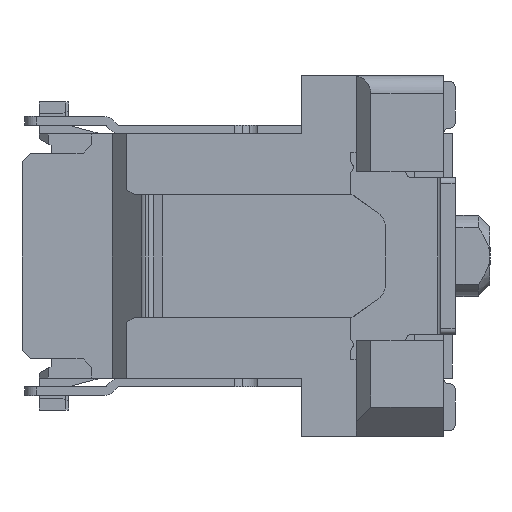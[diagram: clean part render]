
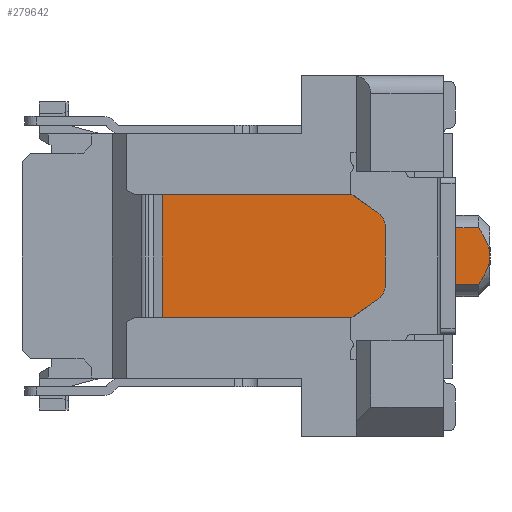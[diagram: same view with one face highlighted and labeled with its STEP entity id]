
A CAD part, left-side view. The second image highlights one B-rep face of the part: STEP entity #279642.
In plain terms, the highlighted planar face has unit normal (-1, 0, 0).
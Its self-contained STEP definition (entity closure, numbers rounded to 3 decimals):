
#2376 = EDGE_CURVE ( 'NONE', #144542, #52124, #21809, .T. ) ;
#3175 = DIRECTION ( 'NONE',  ( 0., 0., 1. ) ) ;
#17566 = ORIENTED_EDGE ( 'NONE', *, *, #175885, .F. ) ;
#21198 = CARTESIAN_POINT ( 'NONE',  ( -16.85, 5.041, -1.724 ) ) ;
#21809 = LINE ( 'NONE', #124909, #67159 ) ;
#28667 = DIRECTION ( 'NONE',  ( 0., -1., 0. ) ) ;
#37961 = CARTESIAN_POINT ( 'NONE',  ( -16.85, -0.574, -0.178 ) ) ;
#38967 = CARTESIAN_POINT ( 'NONE',  ( -16.85, -0.4, 0.49 ) ) ;
#52124 = VERTEX_POINT ( 'NONE', #205017 ) ;
#55818 = ORIENTED_EDGE ( 'NONE', *, *, #189562, .T. ) ;
#57181 = DIRECTION ( 'NONE',  ( 0., 1., 0. ) ) ;
#60444 = CARTESIAN_POINT ( 'NONE',  ( -16.85, -0.451, -0.417 ) ) ;
#61705 = VERTEX_POINT ( 'NONE', #263848 ) ;
#66049 = DIRECTION ( 'NONE',  ( 0., 0., 1. ) ) ;
#67159 = VECTOR ( 'NONE', #284876, 1000. ) ;
#77405 = CARTESIAN_POINT ( 'NONE',  ( -16.85, -0.4, 0.49 ) ) ;
#82153 = DIRECTION ( 'NONE',  ( 0., 1., 0. ) ) ;
#83717 = CARTESIAN_POINT ( 'NONE',  ( -16.85, -0.574, 0.179 ) ) ;
#85051 = VERTEX_POINT ( 'NONE', #118874 ) ;
#90376 = ORIENTED_EDGE ( 'NONE', *, *, #109785, .T. ) ;
#90633 = ORIENTED_EDGE ( 'NONE', *, *, #227441, .T. ) ;
#91454 = VERTEX_POINT ( 'NONE', #253071 ) ;
#92761 = EDGE_LOOP ( 'NONE', ( #174679, #90633, #153599, #135943, #17566, #170763, #90376, #55818, #196336 ) ) ;
#94098 = EDGE_CURVE ( 'NONE', #85051, #173667, #182687, .T. ) ;
#94907 = B_SPLINE_CURVE_WITH_KNOTS ( 'NONE', 3,
 ( #38967, #194951, #217328, #83717, #239794, #106284 ),
 .UNSPECIFIED., .F., .F.,
 ( 4, 2, 4 ),
 ( 0.002, 0.002, 0.003 ),
 .UNSPECIFIED. ) ;
#102771 = AXIS2_PLACEMENT_3D ( 'NONE', #110116, #265898, #132471 ) ;
#105712 = LINE ( 'NONE', #136451, #224278 ) ;
#106284 = CARTESIAN_POINT ( 'NONE',  ( -16.85, -0.6, 0. ) ) ;
#109785 = EDGE_CURVE ( 'NONE', #149050, #61705, #275068, .T. ) ;
#110116 = CARTESIAN_POINT ( 'NONE',  ( -16.85, -0.6, -0.49 ) ) ;
#118874 = CARTESIAN_POINT ( 'NONE',  ( -16.85, -0.4, -0.49 ) ) ;
#119336 = VECTOR ( 'NONE', #227813, 1000. ) ;
#120396 = VECTOR ( 'NONE', #66049, 1000. ) ;
#121995 = CARTESIAN_POINT ( 'NONE',  ( -16.85, 5.041, 1.05 ) ) ;
#122182 = CARTESIAN_POINT ( 'NONE',  ( -16.85, -0.6, 0.49 ) ) ;
#124909 = CARTESIAN_POINT ( 'NONE',  ( -16.85, 7.45, 1.05 ) ) ;
#127268 = LINE ( 'NONE', #140640, #245868 ) ;
#132160 = B_SPLINE_CURVE_WITH_KNOTS ( 'NONE', 3,
 ( #260066, #149007, #37961, #193944, #60444, #216289 ),
 .UNSPECIFIED., .F., .F.,
 ( 4, 2, 4 ),
 ( 0.003, 0.003, 0.003 ),
 .UNSPECIFIED. ) ;
#132471 = DIRECTION ( 'NONE',  ( 0., 0., 1. ) ) ;
#135943 = ORIENTED_EDGE ( 'NONE', *, *, #94098, .F. ) ;
#136451 = CARTESIAN_POINT ( 'NONE',  ( -16.85, 0.2, 1.2 ) ) ;
#139114 = CARTESIAN_POINT ( 'NONE',  ( -16.85, 0.2, -0.49 ) ) ;
#140640 = CARTESIAN_POINT ( 'NONE',  ( -16.85, 7.45, -1.05 ) ) ;
#144542 = VERTEX_POINT ( 'NONE', #121995 ) ;
#149007 = CARTESIAN_POINT ( 'NONE',  ( -16.85, -0.6, -0.089 ) ) ;
#149050 = VERTEX_POINT ( 'NONE', #77405 ) ;
#151215 = VECTOR ( 'NONE', #57181, 1000. ) ;
#153599 = ORIENTED_EDGE ( 'NONE', *, *, #161359, .T. ) ;
#161359 = EDGE_CURVE ( 'NONE', #248688, #173667, #105712, .T. ) ;
#162700 = CARTESIAN_POINT ( 'NONE',  ( -16.85, 0.2, -1.05 ) ) ;
#170040 = EDGE_CURVE ( 'NONE', #149050, #223031, #94907, .T. ) ;
#170763 = ORIENTED_EDGE ( 'NONE', *, *, #170040, .F. ) ;
#173667 = VERTEX_POINT ( 'NONE', #139114 ) ;
#174679 = ORIENTED_EDGE ( 'NONE', *, *, #221058, .F. ) ;
#175885 = EDGE_CURVE ( 'NONE', #223031, #85051, #132160, .T. ) ;
#182687 = LINE ( 'NONE', #190773, #151215 ) ;
#185738 = LINE ( 'NONE', #205362, #119336 ) ;
#187064 = FACE_OUTER_BOUND ( 'NONE', #92761, .T. ) ;
#189562 = EDGE_CURVE ( 'NONE', #61705, #52124, #185738, .T. ) ;
#190773 = CARTESIAN_POINT ( 'NONE',  ( -16.85, -0.6, -0.49 ) ) ;
#193944 = CARTESIAN_POINT ( 'NONE',  ( -16.85, -0.5, -0.34 ) ) ;
#194951 = CARTESIAN_POINT ( 'NONE',  ( -16.85, -0.451, 0.417 ) ) ;
#196336 = ORIENTED_EDGE ( 'NONE', *, *, #2376, .F. ) ;
#205017 = CARTESIAN_POINT ( 'NONE',  ( -16.85, 0.2, 1.05 ) ) ;
#205362 = CARTESIAN_POINT ( 'NONE',  ( -16.85, 0.2, 1.2 ) ) ;
#216289 = CARTESIAN_POINT ( 'NONE',  ( -16.85, -0.4, -0.49 ) ) ;
#217328 = CARTESIAN_POINT ( 'NONE',  ( -16.85, -0.499, 0.342 ) ) ;
#221058 = EDGE_CURVE ( 'NONE', #91454, #144542, #239044, .T. ) ;
#223031 = VERTEX_POINT ( 'NONE', #267153 ) ;
#224278 = VECTOR ( 'NONE', #3175, 1000. ) ;
#227441 = EDGE_CURVE ( 'NONE', #91454, #248688, #127268, .T. ) ;
#227813 = DIRECTION ( 'NONE',  ( 0., 0., 1. ) ) ;
#239044 = LINE ( 'NONE', #21198, #120396 ) ;
#239794 = CARTESIAN_POINT ( 'NONE',  ( -16.85, -0.6, 0.09 ) ) ;
#242671 = PLANE ( 'NONE',  #102771 ) ;
#245868 = VECTOR ( 'NONE', #28667, 1000. ) ;
#248688 = VERTEX_POINT ( 'NONE', #162700 ) ;
#253071 = CARTESIAN_POINT ( 'NONE',  ( -16.85, 5.041, -1.05 ) ) ;
#260066 = CARTESIAN_POINT ( 'NONE',  ( -16.85, -0.6, 0. ) ) ;
#263848 = CARTESIAN_POINT ( 'NONE',  ( -16.85, 0.2, 0.49 ) ) ;
#265898 = DIRECTION ( 'NONE',  ( -1., 0., 0. ) ) ;
#267153 = CARTESIAN_POINT ( 'NONE',  ( -16.85, -0.6, 0. ) ) ;
#268094 = VECTOR ( 'NONE', #82153, 1000. ) ;
#275068 = LINE ( 'NONE', #122182, #268094 ) ;
#279642 = ADVANCED_FACE ( 'NONE', ( #187064 ), #242671, .T. ) ;
#284876 = DIRECTION ( 'NONE',  ( 0., -1., 0. ) ) ;
